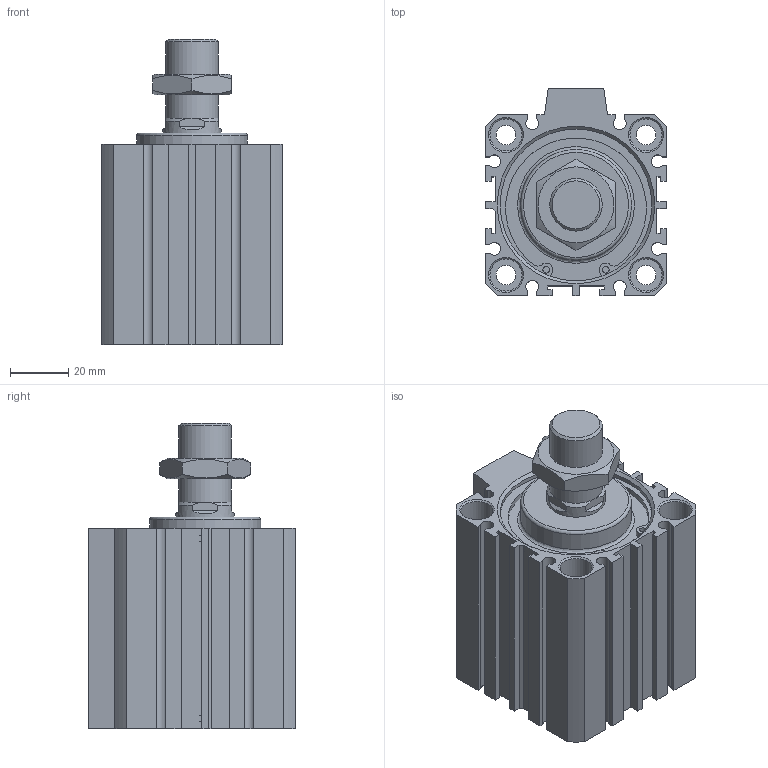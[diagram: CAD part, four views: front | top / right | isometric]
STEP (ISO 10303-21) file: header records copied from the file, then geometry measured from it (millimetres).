
FILE_DESCRIPTION((''),'2;1');
FILE_NAME('I:\3D電子目錄\氣缸\JD\JD-BS\JD50-BS\JD50\JD50x30-BS.stp','2007-08-06T08:56:31',('66-2f-008'),(''),'Autodesk Inventor 11','Autodesk Inventor 11','');
FILE_SCHEMA(('AUTOMOTIVE_DESIGN { 1 0 10303 214 1 1 1 1 }'));
Length unit declared in the file: millimetre
Products named in the file (3): JD50x30-BS; R 形環 52
Assembly tree (3 placements, depth 2):
  JD50x30-BS
    JD50x30-BS
    R 形環 52  x2
Bounding box: 62 x 71 x 104.6 mm (x, y, z)
Volume: 242756.8 mm3; surface area: 51266.8 mm2
Topology: 3 solids, 3 shells, 194 faces, 476 edges, 311 vertices
Faces by surface type: plane 116, cylinder 53, cone 21, bspline 2, torus 2
Full cylindrical faces by diameter (mm): 2.3 x4, 2.7 x2, 6.8 x4, 11 x8, 18 x2, 20 x1, 37 x1, 38 x1, 52 x4, 55 x2
Entity records: 5222 total; most frequent: CARTESIAN_POINT 993, DIRECTION 867, ORIENTED_EDGE 784, EDGE_CURVE 392, AXIS2_PLACEMENT_3D 309, VERTEX_POINT 285, EDGE_LOOP 265, VECTOR 249
